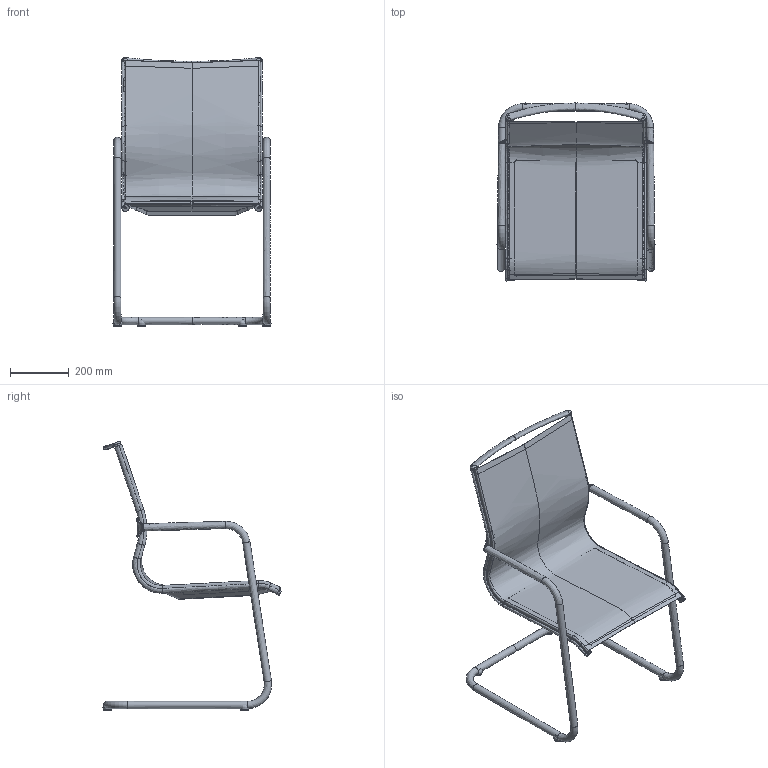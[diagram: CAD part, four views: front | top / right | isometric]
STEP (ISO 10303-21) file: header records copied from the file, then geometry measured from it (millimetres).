
FILE_DESCRIPTION(/* description */ (''),/* implementation_level */ '2;1');
FILE_NAME(/* name */ 'PLB366~1',/* time_stamp */ '2018-04-10T15:22:14+02:00',/* author */ (''),/* organization */ (''),/* preprocessor_version */ 'ST-DEVELOPER v16.5',/* originating_system */ '',/* authorisation */ '');
FILE_SCHEMA (('AUTOMOTIVE_DESIGN'));
Length unit declared in the file: millimetre
Products named in the file (1): Document
Bounding box: 539.81 x 608.69 x 917.21 mm (x, y, z)
Volume: 8577558.9 mm3; surface area: 1350558.3 mm2
Topology: 4 solids, 16 shells, 140 faces, 370 edges, 252 vertices
Faces by surface type: bspline 110, plane 30
Entity records: 13576 total; most frequent: CARTESIAN_POINT 11498, ORIENTED_EDGE 656, EDGE_CURVE 367, VERTEX_POINT 246, B_SPLINE_CURVE_WITH_KNOTS 144, ADVANCED_FACE 140, FACE_OUTER_BOUND 140, EDGE_LOOP 140
